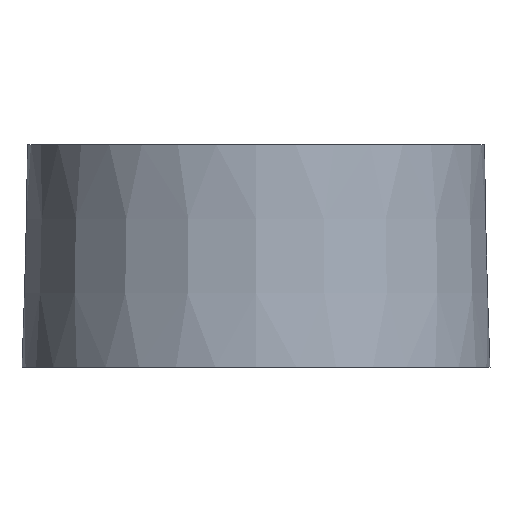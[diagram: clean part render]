
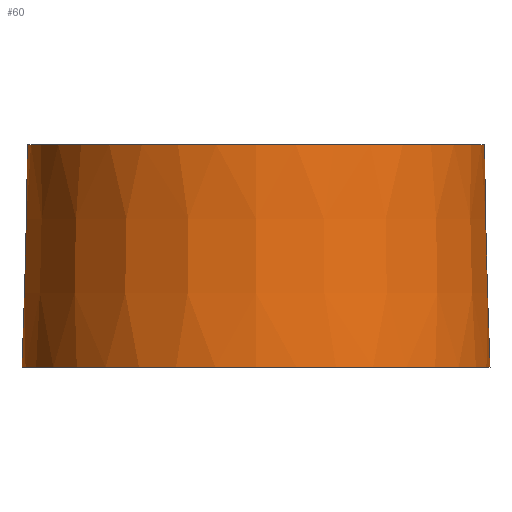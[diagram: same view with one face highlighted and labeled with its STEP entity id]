
A CAD part, left-side view. The second image highlights one B-rep face of the part: STEP entity #60.
In plain terms, the highlighted conical face has half-angle 1.432 degrees and reference radius 42 mm.
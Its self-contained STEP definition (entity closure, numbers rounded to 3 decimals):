
#19=FACE_BOUND($,#29,.T.);
#21=FACE_OUTER_BOUND($,#28,.T.);
#28=EDGE_LOOP($,(#48));
#29=EDGE_LOOP($,(#49));
#32=CIRCLE($,#68,41.);
#33=CIRCLE($,#70,42.);
#36=VERTEX_POINT($,#97);
#37=VERTEX_POINT($,#100);
#40=EDGE_CURVE($,#36,#36,#32,.T.);
#41=EDGE_CURVE($,#37,#37,#33,.T.);
#48=ORIENTED_EDGE($,*,*,#41,.T.);
#49=ORIENTED_EDGE($,*,*,#40,.T.);
#51=CONICAL_SURFACE($,#71,42.,1.432);
#60=ADVANCED_FACE($,(#21,#19),#51,.T.);
#68=AXIS2_PLACEMENT_3D($,#98,#82,#83);
#70=AXIS2_PLACEMENT_3D($,#101,#86,#87);
#71=AXIS2_PLACEMENT_3D($,#102,#88,#89);
#82=DIRECTION('center_axis',(0.,0.,-1.));
#83=DIRECTION('ref_axis',(-1.,0.,0.));
#86=DIRECTION('center_axis',(0.,0.,1.));
#87=DIRECTION('ref_axis',(-1.,0.,0.));
#88=DIRECTION('center_axis',(0.,0.,-1.));
#89=DIRECTION('ref_axis',(1.,0.,0.));
#97=CARTESIAN_POINT('',(-41.,0.,40.));
#98=CARTESIAN_POINT('Origin',(0.,0.,40.));
#100=CARTESIAN_POINT('',(-42.,0.,0.));
#101=CARTESIAN_POINT('Origin',(0.,0.,0.));
#102=CARTESIAN_POINT('Origin',(0.,0.,0.));
